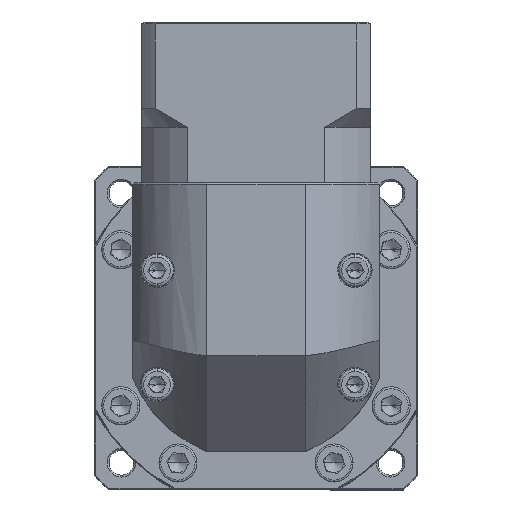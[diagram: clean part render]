
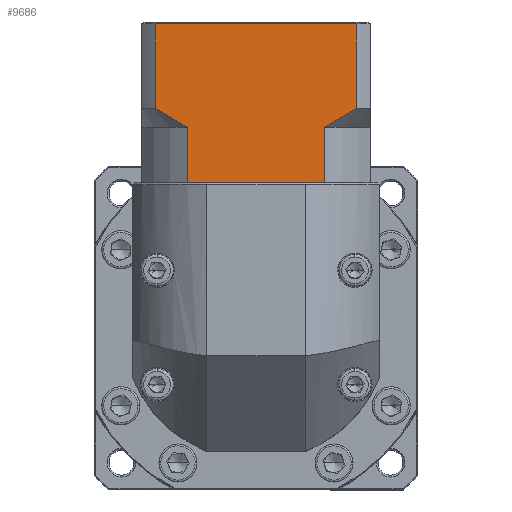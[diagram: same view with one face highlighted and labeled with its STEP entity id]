
A CAD part, top view. The second image highlights one B-rep face of the part: STEP entity #9686.
In plain terms, the highlighted planar face has unit normal (0, 0, 1).
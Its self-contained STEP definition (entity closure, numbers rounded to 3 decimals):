
#4145 = FACE_OUTER_BOUND ( 'NONE', #104477, .T. ) ;
#5116 = DIRECTION ( 'NONE',  ( -1., 0., 0. ) ) ;
#5621 = CARTESIAN_POINT ( 'NONE',  ( -115.183, 55.241, 48.506 ) ) ;
#9686 = ADVANCED_FACE ( 'NONE', ( #4145 ), #108054, .F. ) ;
#11055 = VECTOR ( 'NONE', #80705, 1000. ) ;
#12109 = VERTEX_POINT ( 'NONE', #35754 ) ;
#14482 = DIRECTION ( 'NONE',  ( 1., 0., 0. ) ) ;
#14555 = DIRECTION ( 'NONE',  ( 0., -1., 0. ) ) ;
#16579 = CARTESIAN_POINT ( 'NONE',  ( -106.095, 71.292, 48.506 ) ) ;
#18385 = CARTESIAN_POINT ( 'NONE',  ( -110.281, 73.841, 48.506 ) ) ;
#19032 = CARTESIAN_POINT ( 'NONE',  ( -111.641, 69.741, 48.506 ) ) ;
#19763 = VERTEX_POINT ( 'NONE', #120426 ) ;
#22135 = EDGE_CURVE ( 'NONE', #41424, #88608, #43674, .T. ) ;
#22544 = ORIENTED_EDGE ( 'NONE', *, *, #68007, .F. ) ;
#24128 = LINE ( 'NONE', #5621, #95369 ) ;
#24802 = CARTESIAN_POINT ( 'NONE',  ( -58.726, 69.741, 48.506 ) ) ;
#26791 = VERTEX_POINT ( 'NONE', #127440 ) ;
#33309 = VERTEX_POINT ( 'NONE', #68879 ) ;
#33770 = CARTESIAN_POINT ( 'NONE',  ( -115.183, 55.241, 48.506 ) ) ;
#33872 = B_SPLINE_CURVE_WITH_KNOTS ( 'NONE', 3,
 ( #135458, #72008, #93775, #74301, #127136, #116552 ),
 .UNSPECIFIED., .F., .F.,
 ( 4, 2, 4 ),
 ( 0.1, 0.104, 0.109 ),
 .UNSPECIFIED. ) ;
#34372 = DIRECTION ( 'NONE',  ( 0., 1., 0. ) ) ;
#34770 = ORIENTED_EDGE ( 'NONE', *, *, #105978, .T. ) ;
#35754 = CARTESIAN_POINT ( 'NONE',  ( -67.156, 55.241, 48.506 ) ) ;
#37659 = CARTESIAN_POINT ( 'NONE',  ( -67.156, 69.741, 48.506 ) ) ;
#38195 = CARTESIAN_POINT ( 'NONE',  ( -103.211, 69.741, 48.506 ) ) ;
#39075 = VERTEX_POINT ( 'NONE', #53086 ) ;
#40421 = CARTESIAN_POINT ( 'NONE',  ( -111.641, 96.941, 48.506 ) ) ;
#40898 = CARTESIAN_POINT ( 'NONE',  ( -58.726, 96.941, 48.506 ) ) ;
#41424 = VERTEX_POINT ( 'NONE', #40898 ) ;
#42588 = AXIS2_PLACEMENT_3D ( 'NONE', #131116, #76946, #34372 ) ;
#42971 = EDGE_CURVE ( 'NONE', #80129, #12109, #46734, .T. ) ;
#43674 = LINE ( 'NONE', #24802, #131492 ) ;
#46734 = LINE ( 'NONE', #37659, #79755 ) ;
#47508 = LINE ( 'NONE', #118778, #133563 ) ;
#50407 = VECTOR ( 'NONE', #96279, 1000. ) ;
#51617 = CARTESIAN_POINT ( 'NONE',  ( -68.147, 55.241, 48.506 ) ) ;
#53086 = CARTESIAN_POINT ( 'NONE',  ( -111.641, 74.741, 48.506 ) ) ;
#56344 = EDGE_CURVE ( 'NONE', #26791, #67519, #47508, .T. ) ;
#58821 = ORIENTED_EDGE ( 'NONE', *, *, #22135, .F. ) ;
#59212 = CARTESIAN_POINT ( 'NONE',  ( -103.211, 69.741, 48.506 ) ) ;
#67519 = VERTEX_POINT ( 'NONE', #51617 ) ;
#68007 = EDGE_CURVE ( 'NONE', #39075, #123250, #83889, .T. ) ;
#68879 = CARTESIAN_POINT ( 'NONE',  ( -103.211, 69.741, 48.506 ) ) ;
#69563 = VECTOR ( 'NONE', #5116, 1000. ) ;
#70273 = VECTOR ( 'NONE', #121158, 1000. ) ;
#72008 = CARTESIAN_POINT ( 'NONE',  ( -65.699, 70.491, 48.506 ) ) ;
#74301 = CARTESIAN_POINT ( 'NONE',  ( -61.469, 72.966, 48.506 ) ) ;
#75825 = EDGE_CURVE ( 'NONE', #19763, #33309, #83581, .T. ) ;
#76946 = DIRECTION ( 'NONE',  ( 0., 0., -1. ) ) ;
#78424 = EDGE_CURVE ( 'NONE', #80129, #88608, #33872, .T. ) ;
#78804 = EDGE_CURVE ( 'NONE', #19763, #26791, #24128, .T. ) ;
#79755 = VECTOR ( 'NONE', #136224, 1000. ) ;
#80129 = VERTEX_POINT ( 'NONE', #110676 ) ;
#80705 = DIRECTION ( 'NONE',  ( 0., 1., 0. ) ) ;
#83581 = LINE ( 'NONE', #38195, #70273 ) ;
#83889 = LINE ( 'NONE', #19032, #11055 ) ;
#84456 = LINE ( 'NONE', #121496, #69563 ) ;
#86789 = CARTESIAN_POINT ( 'NONE',  ( -58.726, 74.741, 48.506 ) ) ;
#88608 = VERTEX_POINT ( 'NONE', #86789 ) ;
#89092 = B_SPLINE_CURVE_WITH_KNOTS ( 'NONE', 3,
 ( #120471, #18385, #123603, #16579, #91614, #59212 ),
 .UNSPECIFIED., .F., .F.,
 ( 4, 2, 4 ),
 ( 0.052, 0.057, 0.062 ),
 .UNSPECIFIED. ) ;
#91292 = EDGE_CURVE ( 'NONE', #67519, #12109, #106888, .T. ) ;
#91614 = CARTESIAN_POINT ( 'NONE',  ( -104.663, 70.489, 48.506 ) ) ;
#93775 = CARTESIAN_POINT ( 'NONE',  ( -64.274, 71.292, 48.506 ) ) ;
#95369 = VECTOR ( 'NONE', #14482, 1000. ) ;
#95600 = ORIENTED_EDGE ( 'NONE', *, *, #42971, .F. ) ;
#96279 = DIRECTION ( 'NONE',  ( 1., 0., 0. ) ) ;
#104477 = EDGE_LOOP ( 'NONE', ( #58821, #133564, #22544, #34770, #111078, #126804, #127350, #116772, #95600, #131622 ) ) ;
#105978 = EDGE_CURVE ( 'NONE', #39075, #33309, #89092, .T. ) ;
#106888 = LINE ( 'NONE', #33770, #50407 ) ;
#108054 = PLANE ( 'NONE',  #42588 ) ;
#109043 = DIRECTION ( 'NONE',  ( 1., 0., 0. ) ) ;
#110676 = CARTESIAN_POINT ( 'NONE',  ( -67.156, 69.741, 48.506 ) ) ;
#111078 = ORIENTED_EDGE ( 'NONE', *, *, #75825, .F. ) ;
#116235 = EDGE_CURVE ( 'NONE', #41424, #123250, #84456, .T. ) ;
#116552 = CARTESIAN_POINT ( 'NONE',  ( -58.726, 74.741, 48.506 ) ) ;
#116772 = ORIENTED_EDGE ( 'NONE', *, *, #91292, .T. ) ;
#118778 = CARTESIAN_POINT ( 'NONE',  ( -115.183, 55.241, 48.506 ) ) ;
#120426 = CARTESIAN_POINT ( 'NONE',  ( -103.211, 55.241, 48.506 ) ) ;
#120471 = CARTESIAN_POINT ( 'NONE',  ( -111.641, 74.741, 48.506 ) ) ;
#121158 = DIRECTION ( 'NONE',  ( 0., 1., 0. ) ) ;
#121496 = CARTESIAN_POINT ( 'NONE',  ( -115.183, 96.941, 48.506 ) ) ;
#123250 = VERTEX_POINT ( 'NONE', #40421 ) ;
#123603 = CARTESIAN_POINT ( 'NONE',  ( -108.902, 72.968, 48.506 ) ) ;
#126804 = ORIENTED_EDGE ( 'NONE', *, *, #78804, .T. ) ;
#127136 = CARTESIAN_POINT ( 'NONE',  ( -60.089, 73.84, 48.506 ) ) ;
#127350 = ORIENTED_EDGE ( 'NONE', *, *, #56344, .T. ) ;
#127440 = CARTESIAN_POINT ( 'NONE',  ( -102.22, 55.241, 48.506 ) ) ;
#131116 = CARTESIAN_POINT ( 'NONE',  ( -115.183, 97.441, 48.506 ) ) ;
#131492 = VECTOR ( 'NONE', #14555, 1000. ) ;
#131622 = ORIENTED_EDGE ( 'NONE', *, *, #78424, .T. ) ;
#133563 = VECTOR ( 'NONE', #109043, 1000. ) ;
#133564 = ORIENTED_EDGE ( 'NONE', *, *, #116235, .T. ) ;
#135458 = CARTESIAN_POINT ( 'NONE',  ( -67.156, 69.741, 48.506 ) ) ;
#136224 = DIRECTION ( 'NONE',  ( 0., -1., 0. ) ) ;
